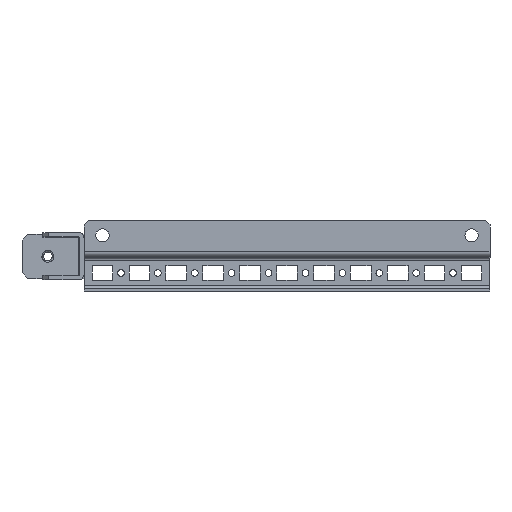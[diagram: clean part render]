
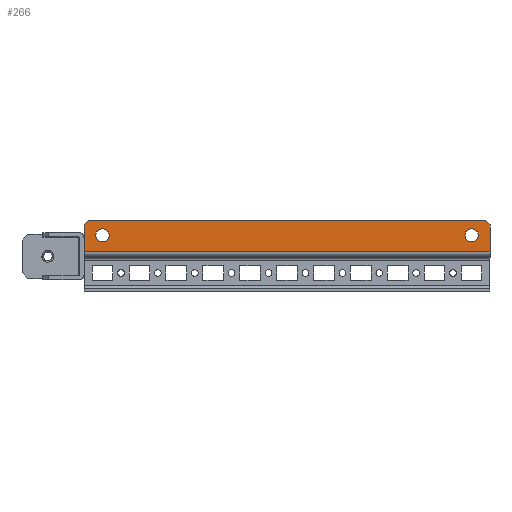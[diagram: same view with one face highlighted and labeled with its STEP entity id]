
A CAD part, top view. The second image highlights one B-rep face of the part: STEP entity #266.
In plain terms, the highlighted planar face has unit normal (0, 0, 1).
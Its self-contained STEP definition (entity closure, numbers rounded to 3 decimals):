
#44 = VERTEX_POINT ( 'NONE', #7591 ) ;
#192 = LINE ( 'NONE', #9600, #3623 ) ;
#266 = ADVANCED_FACE ( 'NONE', ( #4293, #4346, #4203 ), #9194, .F. ) ;
#649 = EDGE_CURVE ( 'NONE', #7062, #8002, #6143, .T. ) ;
#777 = EDGE_LOOP ( 'NONE', ( #8474, #8820 ) ) ;
#795 = CIRCLE ( 'NONE', #3170, 4.5 ) ;
#827 = EDGE_LOOP ( 'NONE', ( #3340, #4624, #4023, #7942, #2753, #2569 ) ) ;
#863 = ORIENTED_EDGE ( 'NONE', *, *, #3267, .T. ) ;
#926 = EDGE_LOOP ( 'NONE', ( #863, #6954 ) ) ;
#1506 = VECTOR ( 'NONE', #6769, 1000. ) ;
#1552 = AXIS2_PLACEMENT_3D ( 'NONE', #5203, #5202, #5185 ) ;
#1893 = EDGE_CURVE ( 'NONE', #7398, #6603, #8455, .T. ) ;
#2270 = CARTESIAN_POINT ( 'NONE',  ( 137.5, 2., 17.5 ) ) ;
#2275 = DIRECTION ( 'NONE',  ( -1., 0., 0. ) ) ;
#2569 = ORIENTED_EDGE ( 'NONE', *, *, #649, .T. ) ;
#2747 = EDGE_CURVE ( 'NONE', #7694, #6603, #192, .T. ) ;
#2753 = ORIENTED_EDGE ( 'NONE', *, *, #5628, .T. ) ;
#3014 = LINE ( 'NONE', #4295, #8896 ) ;
#3170 = AXIS2_PLACEMENT_3D ( 'NONE', #6913, #6902, #6878 ) ;
#3267 = EDGE_CURVE ( 'NONE', #44, #3546, #795, .T. ) ;
#3284 = EDGE_CURVE ( 'NONE', #8002, #7694, #5082, .T. ) ;
#3340 = ORIENTED_EDGE ( 'NONE', *, *, #3284, .T. ) ;
#3406 = VERTEX_POINT ( 'NONE', #6091 ) ;
#3437 = AXIS2_PLACEMENT_3D ( 'NONE', #9182, #9173, #9162 ) ;
#3546 = VERTEX_POINT ( 'NONE', #5682 ) ;
#3552 = CIRCLE ( 'NONE', #4223, 4.5 ) ;
#3623 = VECTOR ( 'NONE', #9519, 1000. ) ;
#3814 = CARTESIAN_POINT ( 'NONE',  ( -134.5, 23., 17.5 ) ) ;
#4023 = ORIENTED_EDGE ( 'NONE', *, *, #1893, .F. ) ;
#4203 = FACE_BOUND ( 'NONE', #926, .T. ) ;
#4223 = AXIS2_PLACEMENT_3D ( 'NONE', #6376, #6366, #6364 ) ;
#4293 = FACE_OUTER_BOUND ( 'NONE', #827, .T. ) ;
#4295 = CARTESIAN_POINT ( 'NONE',  ( 134.5, 23., 17.5 ) ) ;
#4346 = FACE_BOUND ( 'NONE', #777, .T. ) ;
#4382 = DIRECTION ( 'NONE',  ( -0.707, 0.707, 0. ) ) ;
#4444 = LINE ( 'NONE', #4588, #9587 ) ;
#4568 = DIRECTION ( 'NONE',  ( 0., 1., 0. ) ) ;
#4588 = CARTESIAN_POINT ( 'NONE',  ( 137.5, 23., 17.5 ) ) ;
#4624 = ORIENTED_EDGE ( 'NONE', *, *, #2747, .T. ) ;
#5082 = LINE ( 'NONE', #6861, #1506 ) ;
#5085 = CARTESIAN_POINT ( 'NONE',  ( -137.5, 20., 17.5 ) ) ;
#5112 = AXIS2_PLACEMENT_3D ( 'NONE', #5870, #5867, #5853 ) ;
#5185 = DIRECTION ( 'NONE',  ( -1., 0., 0. ) ) ;
#5202 = DIRECTION ( 'NONE',  ( 0., 0., -1. ) ) ;
#5203 = CARTESIAN_POINT ( 'NONE',  ( 125., 13., 17.5 ) ) ;
#5540 = CIRCLE ( 'NONE', #5112, 4.5 ) ;
#5628 = EDGE_CURVE ( 'NONE', #3406, #7062, #3014, .T. ) ;
#5682 = CARTESIAN_POINT ( 'NONE',  ( -120.5, 13., 17.5 ) ) ;
#5853 = DIRECTION ( 'NONE',  ( -1., 0., 0. ) ) ;
#5856 = VERTEX_POINT ( 'NONE', #6982 ) ;
#5867 = DIRECTION ( 'NONE',  ( 0., 0., -1. ) ) ;
#5870 = CARTESIAN_POINT ( 'NONE',  ( 125., 13., 17.5 ) ) ;
#5889 = CARTESIAN_POINT ( 'NONE',  ( 137.5, 2., 17.5 ) ) ;
#6091 = CARTESIAN_POINT ( 'NONE',  ( 137.5, 20., 17.5 ) ) ;
#6143 = LINE ( 'NONE', #7839, #6213 ) ;
#6213 = VECTOR ( 'NONE', #7820, 1000. ) ;
#6364 = DIRECTION ( 'NONE',  ( -1., 0., 0. ) ) ;
#6366 = DIRECTION ( 'NONE',  ( 0., 0., -1. ) ) ;
#6376 = CARTESIAN_POINT ( 'NONE',  ( -125., 13., 17.5 ) ) ;
#6407 = CIRCLE ( 'NONE', #1552, 4.5 ) ;
#6603 = VERTEX_POINT ( 'NONE', #8516 ) ;
#6703 = CARTESIAN_POINT ( 'NONE',  ( 134.5, 23., 17.5 ) ) ;
#6769 = DIRECTION ( 'NONE',  ( -0.707, -0.707, 0. ) ) ;
#6804 = CARTESIAN_POINT ( 'NONE',  ( 129.5, 13., 17.5 ) ) ;
#6861 = CARTESIAN_POINT ( 'NONE',  ( -137.5, 20., 17.5 ) ) ;
#6878 = DIRECTION ( 'NONE',  ( -1., 0., 0. ) ) ;
#6902 = DIRECTION ( 'NONE',  ( 0., 0., -1. ) ) ;
#6913 = CARTESIAN_POINT ( 'NONE',  ( -125., 13., 17.5 ) ) ;
#6954 = ORIENTED_EDGE ( 'NONE', *, *, #9341, .T. ) ;
#6982 = CARTESIAN_POINT ( 'NONE',  ( 120.5, 13., 17.5 ) ) ;
#7039 = VERTEX_POINT ( 'NONE', #6804 ) ;
#7062 = VERTEX_POINT ( 'NONE', #6703 ) ;
#7350 = EDGE_CURVE ( 'NONE', #5856, #7039, #5540, .T. ) ;
#7398 = VERTEX_POINT ( 'NONE', #5889 ) ;
#7591 = CARTESIAN_POINT ( 'NONE',  ( -129.5, 13., 17.5 ) ) ;
#7621 = EDGE_CURVE ( 'NONE', #7039, #5856, #6407, .T. ) ;
#7694 = VERTEX_POINT ( 'NONE', #5085 ) ;
#7820 = DIRECTION ( 'NONE',  ( -1., 0., 0. ) ) ;
#7839 = CARTESIAN_POINT ( 'NONE',  ( -137.5, 23., 17.5 ) ) ;
#7942 = ORIENTED_EDGE ( 'NONE', *, *, #9688, .T. ) ;
#8002 = VERTEX_POINT ( 'NONE', #3814 ) ;
#8394 = VECTOR ( 'NONE', #2275, 1000. ) ;
#8455 = LINE ( 'NONE', #2270, #8394 ) ;
#8474 = ORIENTED_EDGE ( 'NONE', *, *, #7350, .T. ) ;
#8516 = CARTESIAN_POINT ( 'NONE',  ( -137.5, 2., 17.5 ) ) ;
#8820 = ORIENTED_EDGE ( 'NONE', *, *, #7621, .T. ) ;
#8896 = VECTOR ( 'NONE', #4382, 1000. ) ;
#9162 = DIRECTION ( 'NONE',  ( -1., 0., 0. ) ) ;
#9173 = DIRECTION ( 'NONE',  ( 0., 0., -1. ) ) ;
#9182 = CARTESIAN_POINT ( 'NONE',  ( -137.5, 23., 17.5 ) ) ;
#9194 = PLANE ( 'NONE',  #3437 ) ;
#9341 = EDGE_CURVE ( 'NONE', #3546, #44, #3552, .T. ) ;
#9519 = DIRECTION ( 'NONE',  ( 0., -1., 0. ) ) ;
#9587 = VECTOR ( 'NONE', #4568, 1000. ) ;
#9600 = CARTESIAN_POINT ( 'NONE',  ( -137.5, 0., 17.5 ) ) ;
#9688 = EDGE_CURVE ( 'NONE', #7398, #3406, #4444, .T. ) ;
